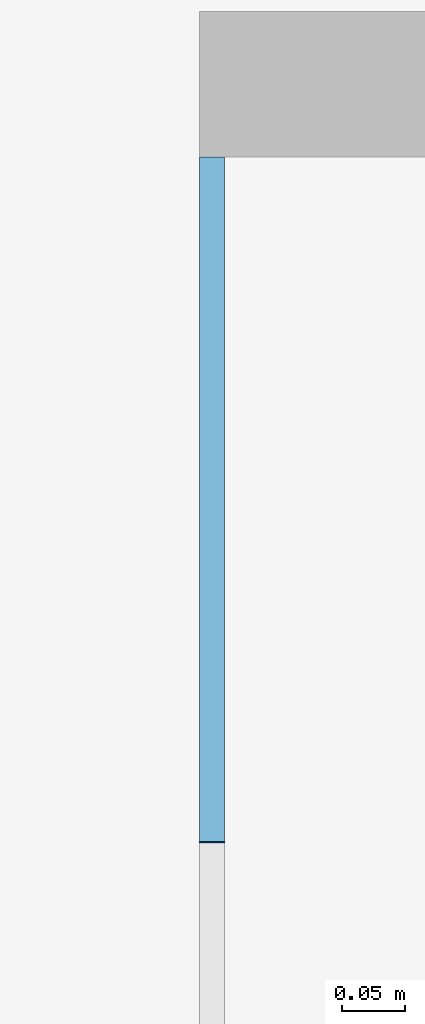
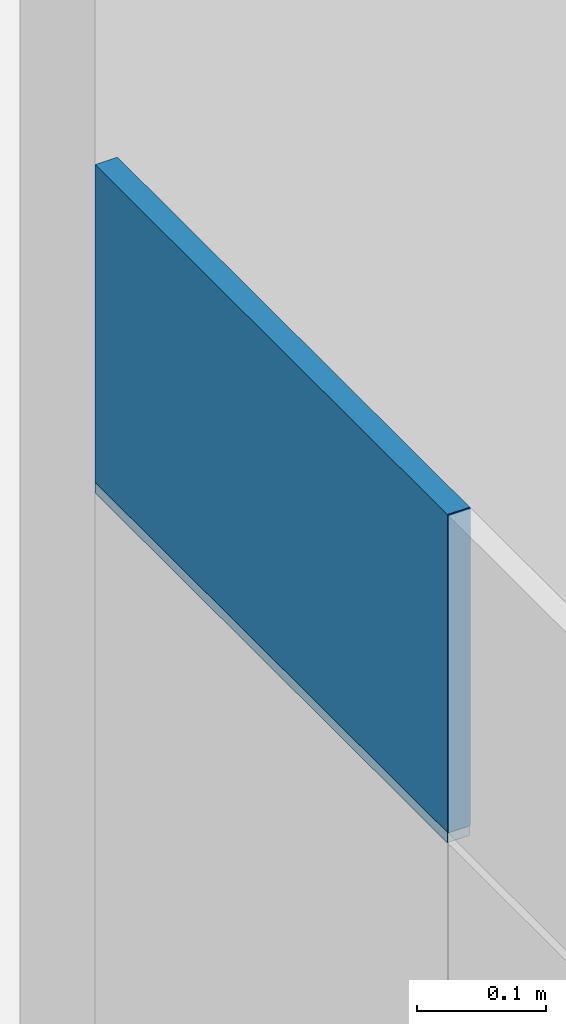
# One storey, part 36 of 66: 3 plates, 1 element without a shape of its own.
"""IFC2X3 building model written with IfcOpenShell, lengths in millimetres."""

from ifc_helpers import new_model, entity, si_unit, converted_unit, derived_unit, direction, frame, origin, origin_2d_with_axis, place, context, subcontext, project, spatial, rectangle, extrude, source, transform, mapped, material, layer, layer_set, layer_usage, type_object, type_shapes, element, aggregate, save


model = new_model("IFC2X3")

# Units and contexts
model_context = context("Model", 3, precision=0.01, world=origin(), true_north=direction((6.12303176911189e-17, 1.0)))
body_context = subcontext(model_context, "Body", "Model", "MODEL_VIEW")
ifc_project = project(units=[si_unit("LENGTHUNIT", "METRE", prefix="MILLI"), si_unit("AREAUNIT", "SQUARE_METRE"), si_unit("VOLUMEUNIT", "CUBIC_METRE"), converted_unit("PLANEANGLEUNIT", "DEGREE", entity("IfcRatioMeasure", 0.0174532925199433), si_unit("PLANEANGLEUNIT", "RADIAN"), dimensions=[0, 0, 0, 0, 0, 0, 0]), si_unit("MASSUNIT", "GRAM", prefix="KILO"), derived_unit("MASSDENSITYUNIT", [(si_unit("MASSUNIT", "GRAM", prefix="KILO"), 1), (si_unit("LENGTHUNIT", "METRE"), -3)]), si_unit("TIMEUNIT", "SECOND"), si_unit("FREQUENCYUNIT", "HERTZ"), si_unit("THERMODYNAMICTEMPERATUREUNIT", "DEGREE_CELSIUS"), derived_unit("THERMALTRANSMITTANCEUNIT", [(si_unit("MASSUNIT", "GRAM", prefix="KILO"), 1), (si_unit("THERMODYNAMICTEMPERATUREUNIT", "KELVIN"), -1), (si_unit("TIMEUNIT", "SECOND"), -3)]), derived_unit("VOLUMETRICFLOWRATEUNIT", [(si_unit("LENGTHUNIT", "METRE"), 3), (si_unit("TIMEUNIT", "SECOND"), -1)]), si_unit("ELECTRICCURRENTUNIT", "AMPERE"), si_unit("ELECTRICVOLTAGEUNIT", "VOLT"), si_unit("POWERUNIT", "WATT"), si_unit("FORCEUNIT", "NEWTON", prefix="KILO"), si_unit("ILLUMINANCEUNIT", "LUX"), si_unit("LUMINOUSFLUXUNIT", "LUMEN"), si_unit("LUMINOUSINTENSITYUNIT", "CANDELA"), derived_unit("USERDEFINED", [(si_unit("MASSUNIT", "GRAM", prefix="KILO"), -1), (si_unit("LENGTHUNIT", "METRE"), -2), (si_unit("TIMEUNIT", "SECOND"), 3), (si_unit("LUMINOUSFLUXUNIT", "LUMEN"), 1)]), derived_unit("LINEARVELOCITYUNIT", [(si_unit("LENGTHUNIT", "METRE"), 1), (si_unit("TIMEUNIT", "SECOND"), -1)]), si_unit("PRESSUREUNIT", "PASCAL"), derived_unit("USERDEFINED", [(si_unit("LENGTHUNIT", "METRE"), -2), (si_unit("MASSUNIT", "GRAM", prefix="KILO"), 1), (si_unit("TIMEUNIT", "SECOND"), -2)])], contexts=[model_context])

# Site, building, storey
site_placement = place(None, frame((-151.875543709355, 2715.0, 0.0)))
site = spatial("IfcSite", under=ifc_project, at=site_placement, Name="Surface", CompositionType="ELEMENT")
building_placement = place(site_placement, origin())
building = spatial("IfcBuilding", under=site, at=building_placement, CompositionType="ELEMENT")
storey_placement = place(building_placement, frame((0.0, 0.0, 3350.0)))
storey = spatial("IfcBuildingStorey", under=building, at=storey_placement, Name="2 korrus", CompositionType="ELEMENT", Elevation=3350.00000000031)

# Curtain wall, plates
curtain_wall_type = type_object("IfcCurtainWallType", Name="Curtain Wall:Klaassein KLS-05", PredefinedType="NOTDEFINED")
curtain_wall_placement = place(storey_placement, frame((0.0, 0.0, -3350.0)))
curtain_wall = element("IfcCurtainWall", 1, at=curtain_wall_placement, inside=storey, type_object=curtain_wall_type, Name="Curtain Wall:Klaassein KLS-05", ObjectType="Curtain Wall:Klaassein KLS-05")
ifc_material = material(Name="<Unnamed>")
ifc_layer = layer(ifc_material, 20.0)
ifc_layer_set = layer_set([ifc_layer], Name="Curtain Wall:Klaassein KLS-01")
ifc_layer_usage_1 = layer_usage(ifc_layer_set, "AXIS3", "POSITIVE", 0.0)
plate_type_1 = type_object("IfcPlateType", Name="Glazed", PredefinedType="CURTAIN_PANEL", material=ifc_layer_set)
shared_shape_1 = source(origin(), body_context, "Body", "SweptSolid", [
    extrude(rectangle(XDim=20.0, YDim=0.999999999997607, at=origin_2d_with_axis()), frame((0.0, 0.0, 0.0), z_axis=(0.0, 0.0, 1.0), x_axis=(0.0, 1.0, 0.0)), (0.0, 0.0, 1.0), 299.999999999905),
])
type_shapes(plate_type_1, [shared_shape_1])
plate_1_placement = place(curtain_wall_placement, frame((24073.28599988, 8399.58011854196, 5450.0), z_axis=(0.0, 0.0, 1.0), x_axis=(0.0, -1.0, 0.0)))
plate_1 = element("IfcPlate", 2, at=plate_1_placement, type_object=plate_type_1, material=ifc_layer_usage_1, Name="System Panel:Glazed", ObjectType="Glazed", context=body_context, shape_type="MappedRepresentation", body=[
    mapped(shared_shape_1, transform((0.0, 0.0, 0.0), scale=1.0)),
])
ifc_layer_usage_2 = layer_usage(ifc_layer_set, "AXIS3", "POSITIVE", 0.0)
plate_type_2 = type_object("IfcPlateType", Name="Glazed", PredefinedType="CURTAIN_PANEL", material=ifc_layer_set)
shared_shape_2 = source(origin(), body_context, "Body", "SweptSolid", [
    extrude(rectangle(XDim=20.0, YDim=544.919881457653, at=origin_2d_with_axis()), frame((0.0, 0.0, 0.0), z_axis=(0.0, 0.0, 1.0), x_axis=(0.0, 1.0, 0.0)), (0.0, 0.0, 1.0), 9.99999999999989),
])
type_shapes(plate_type_2, [shared_shape_2])
plate_2_placement = place(curtain_wall_placement, frame((24073.28599988, 8672.54005927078, 5440.0), z_axis=(0.0, 0.0, 1.0), x_axis=(0.0, -1.0, 0.0)))
plate_2 = element("IfcPlate", 3, at=plate_2_placement, type_object=plate_type_2, material=ifc_layer_usage_2, Name="System Panel:Glazed", ObjectType="Glazed", context=body_context, shape_type="MappedRepresentation", body=[
    mapped(shared_shape_2, transform((0.0, 0.0, 0.0), scale=1.0)),
])
ifc_layer_usage_3 = layer_usage(ifc_layer_set, "AXIS3", "POSITIVE", 0.0)
plate_type_3 = type_object("IfcPlateType", Name="Glazed", PredefinedType="CURTAIN_PANEL", material=ifc_layer_set)
shared_shape_3 = source(origin(), body_context, "Body", "SweptSolid", [
    extrude(rectangle(XDim=20.0, YDim=544.919881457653, at=origin_2d_with_axis()), frame((0.0, 0.0, 0.0), z_axis=(0.0, 0.0, 1.0), x_axis=(0.0, 1.0, 0.0)), (0.0, 0.0, 1.0), 299.999999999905),
])
type_shapes(plate_type_3, [shared_shape_3])
plate_3_placement = place(curtain_wall_placement, frame((24073.28599988, 8672.54005927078, 5450.0), z_axis=(0.0, 0.0, 1.0), x_axis=(0.0, -1.0, 0.0)))
plate_3 = element("IfcPlate", 4, at=plate_3_placement, type_object=plate_type_3, material=ifc_layer_usage_3, Name="System Panel:Glazed", ObjectType="Glazed", context=body_context, shape_type="MappedRepresentation", body=[
    mapped(shared_shape_3, transform((0.0, 0.0, 0.0), scale=1.0)),
])
aggregate(curtain_wall, [plate_2, plate_3, plate_1])

save(model, "model.ifc")
